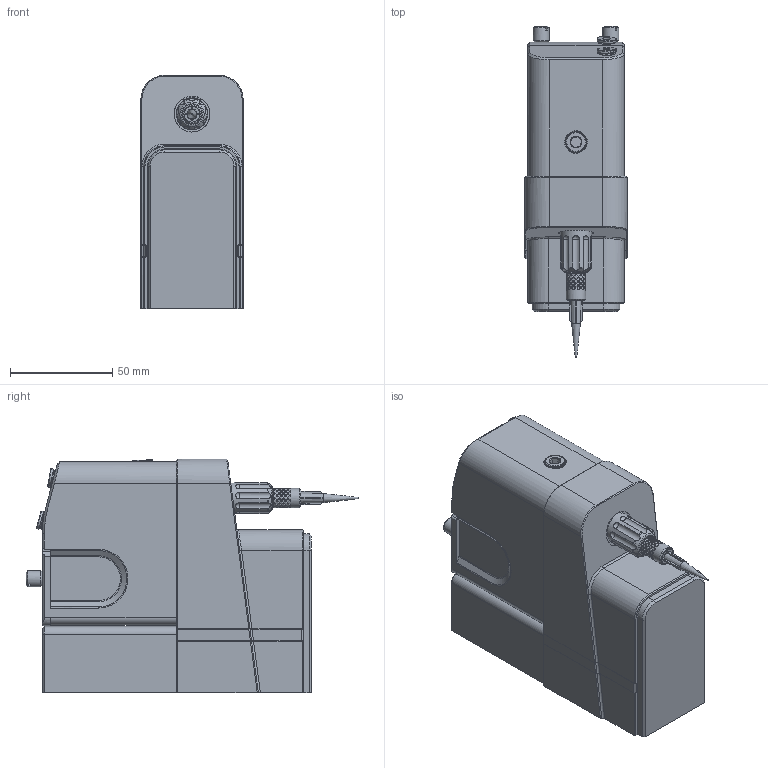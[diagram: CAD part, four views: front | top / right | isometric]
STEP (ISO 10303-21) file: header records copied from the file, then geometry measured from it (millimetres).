
FILE_DESCRIPTION (( 'STEP AP214' ), '1' );
FILE_NAME ('IDS Gen2 Single Material Printhead 900185 defeatured.STEP', '2024-04-23T14:34:49', ( '' ), ( '' ), 'SwSTEP 2.0', 'SolidWorks 2023', '' );
FILE_SCHEMA (( 'AUTOMOTIVE_DESIGN' ));
Length unit declared in the file: millimetre
Products named in the file (1): IDS Gen2 Single Material Printhead 900185 defeatured
Bounding box: 50 x 162.36 x 114.3 mm (x, y, z)
Volume: 614997.2 mm3; surface area: 75163.4 mm2
Topology: 2 solids, 11 shells, 1610 faces, 3923 edges, 2359 vertices
Faces by surface type: plane 603, bspline 427, cylinder 344, cone 203, torus 22, sphere 11
Full cylindrical faces by diameter (mm): 2.5 x4, 5 x1, 6.25 x1, 6.5 x3, 6.6 x4, 7.772 x1, 7.854 x1, 8 x2, 8.5 x2, 9.525 x1, 11 x1, 15.3 x1, 17.5 x1
Entity records: 80914 total; most frequent: CARTESIAN_POINT 47742, ORIENTED_EDGE 7718, DIRECTION 5409, EDGE_CURVE 3859, VERTEX_POINT 2329, AXIS2_PLACEMENT_3D 1910, EDGE_LOOP 1676, FACE_OUTER_BOUND 1634
